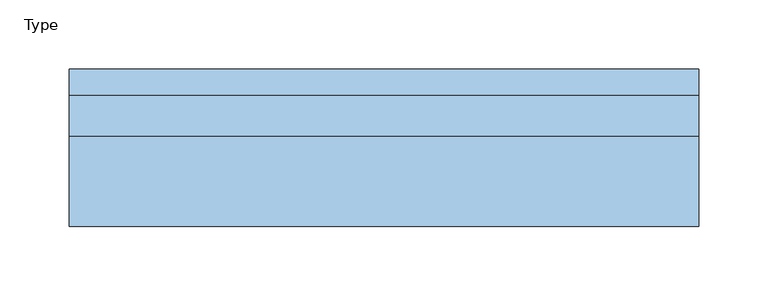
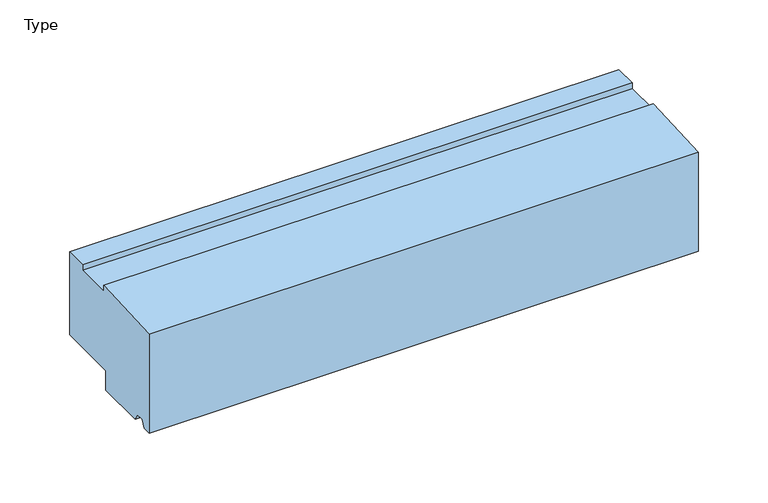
"""IFC4 building model written with IfcOpenShell, lengths in millimetres: window geometry, NLRS_30_MC_bovendorpel_vg_bis_90x114 : Type."""

from ifc_helpers import new_model, si_unit, frame, origin, place, context, project, spatial, polyline, outline, extrude, source, transform, mapped, element, save


def type_efeb9785(model_context):
    return source(origin(), model_context, "Body", "SweptSolid", [
        extrude(outline(polyline([(65.0, -5.0), (95.0, -5.0), (95.0, 0.0), (114.0, 0.0), (114.0, -73.0), (62.0, -73.0), (62.0, -90.0), (20.0, -90.0), (17.0, -84.0), (10.0, -84.0), (7.0, -90.0), (0.0, -90.0), (0.0, -3.4065057), (65.0, 0.0), (65.0, -5.0)])), frame((-227.5, 0.0, 0.0), z_axis=(1.0, 0.0, 0.0), x_axis=(0.0, 1.0, 0.0)), (0.0, 0.0, 1.0), 455.0),
    ])


if __name__ == "__main__":
    model = new_model("IFC4")
    model_context = context("Model", 3, world=origin())
    ifc_project = project(units=[si_unit("LENGTHUNIT", "METRE", prefix="MILLI")], contexts=[model_context])
    site = spatial("IfcSite", under=ifc_project)
    building = spatial("IfcBuilding", under=site)
    placement = place(None, origin())
    ifc_type_shape = type_efeb9785(model_context)
    element("IfcWindow", 1, ObjectType="NLRS_30_MC_bovendorpel_vg_bis_90x114 : Type", at=placement, inside=building, context=model_context, shape_type="MappedRepresentation", body=[
        mapped(ifc_type_shape, transform((0.0, 0.0, 0.0), x_axis=(1.0, 0.0, 0.0), y_axis=(0.0, 1.0, 0.0), z_axis=(0.0, 0.0, 1.0))),
    ])
    save(model, "model.ifc")
